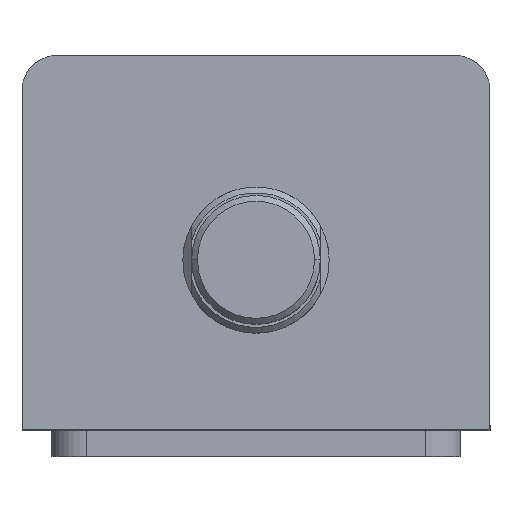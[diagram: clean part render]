
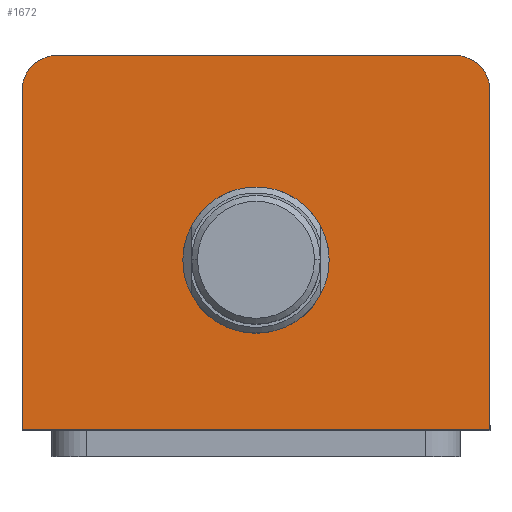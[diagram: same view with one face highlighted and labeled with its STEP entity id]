
A CAD part, top view. The second image highlights one B-rep face of the part: STEP entity #1672.
In plain terms, the highlighted planar face has unit normal (0, 0, 1).
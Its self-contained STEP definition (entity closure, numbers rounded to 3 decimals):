
#13 = CARTESIAN_POINT ( 'NONE',  ( 12.5, -3., 90. ) ) ;
#42 = CARTESIAN_POINT ( 'NONE',  ( 40., 26., 90. ) ) ;
#49 = CARTESIAN_POINT ( 'NONE',  ( -34., 32., 90. ) ) ;
#54 = CARTESIAN_POINT ( 'NONE',  ( 34., 32., 90. ) ) ;
#74 = CARTESIAN_POINT ( 'NONE',  ( -40., -32., 90. ) ) ;
#78 = CARTESIAN_POINT ( 'NONE',  ( 40., -32., 90. ) ) ;
#100 = CARTESIAN_POINT ( 'NONE',  ( -40., 26., 90. ) ) ;
#222 = ORIENTED_EDGE ( 'NONE', *, *, #1406, .T. ) ;
#224 = ORIENTED_EDGE ( 'NONE', *, *, #1346, .F. ) ;
#226 = ORIENTED_EDGE ( 'NONE', *, *, #1445, .F. ) ;
#227 = ORIENTED_EDGE ( 'NONE', *, *, #1428, .T. ) ;
#228 = ORIENTED_EDGE ( 'NONE', *, *, #1432, .T. ) ;
#229 = ORIENTED_EDGE ( 'NONE', *, *, #1374, .T. ) ;
#230 = ORIENTED_EDGE ( 'NONE', *, *, #1389, .T. ) ;
#231 = ORIENTED_EDGE ( 'NONE', *, *, #1419, .T. ) ;
#243 = AXIS2_PLACEMENT_3D ( 'NONE', #3142, #3137, #3135 ) ;
#338 = DIRECTION ( 'NONE',  ( 1., 0., 0. ) ) ;
#339 = DIRECTION ( 'NONE',  ( 0., 0., 1. ) ) ;
#342 = CARTESIAN_POINT ( 'NONE',  ( 34., 26., 90. ) ) ;
#399 = DIRECTION ( 'NONE',  ( -1., 0., 0. ) ) ;
#401 = CARTESIAN_POINT ( 'NONE',  ( -40., 32., 90. ) ) ;
#428 = DIRECTION ( 'NONE',  ( 0., 0., 1. ) ) ;
#432 = DIRECTION ( 'NONE',  ( 1., 0., 0. ) ) ;
#435 = CARTESIAN_POINT ( 'NONE',  ( 0., -3., 90. ) ) ;
#462 = DIRECTION ( 'NONE',  ( 0., 1., 0. ) ) ;
#463 = CARTESIAN_POINT ( 'NONE',  ( 40., 32., 90. ) ) ;
#503 = DIRECTION ( 'NONE',  ( 1., 0., 0. ) ) ;
#520 = CARTESIAN_POINT ( 'NONE',  ( -40., -32., 90. ) ) ;
#1007 = EDGE_LOOP ( 'NONE', ( #222, #227, #228, #229, #230, #231 ) ) ;
#1020 = EDGE_LOOP ( 'NONE', ( #226, #224 ) ) ;
#1346 = EDGE_CURVE ( 'NONE', #2391, #2360, #2675, .T. ) ;
#1374 = EDGE_CURVE ( 'NONE', #2310, #2307, #2713, .T. ) ;
#1389 = EDGE_CURVE ( 'NONE', #2307, #2336, #2747, .T. ) ;
#1406 = EDGE_CURVE ( 'NONE', #2327, #2330, #2776, .T. ) ;
#1419 = EDGE_CURVE ( 'NONE', #2336, #2327, #2792, .T. ) ;
#1428 = EDGE_CURVE ( 'NONE', #2330, #2289, #2805, .T. ) ;
#1432 = EDGE_CURVE ( 'NONE', #2289, #2310, #2811, .T. ) ;
#1445 = EDGE_CURVE ( 'NONE', #2360, #2391, #2836, .T. ) ;
#1672 = ADVANCED_FACE ( 'NONE', ( #1961, #1964 ), #3144, .T. ) ;
#1785 = AXIS2_PLACEMENT_3D ( 'NONE', #435, #428, #432 ) ;
#1800 = AXIS2_PLACEMENT_3D ( 'NONE', #3215, #3213, #3210 ) ;
#1841 = AXIS2_PLACEMENT_3D ( 'NONE', #342, #339, #338 ) ;
#1855 = AXIS2_PLACEMENT_3D ( 'NONE', #3368, #3366, #3365 ) ;
#1961 = FACE_BOUND ( 'NONE', #1020, .T. ) ;
#1964 = FACE_OUTER_BOUND ( 'NONE', #1007, .T. ) ;
#2289 = VERTEX_POINT ( 'NONE', #100 ) ;
#2307 = VERTEX_POINT ( 'NONE', #78 ) ;
#2310 = VERTEX_POINT ( 'NONE', #74 ) ;
#2327 = VERTEX_POINT ( 'NONE', #54 ) ;
#2330 = VERTEX_POINT ( 'NONE', #49 ) ;
#2336 = VERTEX_POINT ( 'NONE', #42 ) ;
#2360 = VERTEX_POINT ( 'NONE', #13 ) ;
#2391 = VERTEX_POINT ( 'NONE', #3397 ) ;
#2675 = CIRCLE ( 'NONE', #1785, 12.5 ) ;
#2713 = LINE ( 'NONE', #520, #2720 ) ;
#2720 = VECTOR ( 'NONE', #503, 1000. ) ;
#2747 = LINE ( 'NONE', #463, #2750 ) ;
#2750 = VECTOR ( 'NONE', #462, 1000. ) ;
#2776 = LINE ( 'NONE', #401, #2779 ) ;
#2779 = VECTOR ( 'NONE', #399, 1000. ) ;
#2792 = CIRCLE ( 'NONE', #1841, 6. ) ;
#2805 = CIRCLE ( 'NONE', #1855, 6. ) ;
#2811 = LINE ( 'NONE', #3331, #2814 ) ;
#2814 = VECTOR ( 'NONE', #3330, 1000. ) ;
#2836 = CIRCLE ( 'NONE', #1800, 12.5 ) ;
#3135 = DIRECTION ( 'NONE',  ( 1., 0., 0. ) ) ;
#3137 = DIRECTION ( 'NONE',  ( 0., 0., 1. ) ) ;
#3142 = CARTESIAN_POINT ( 'NONE',  ( 0., 0., 90. ) ) ;
#3144 = PLANE ( 'NONE',  #243 ) ;
#3210 = DIRECTION ( 'NONE',  ( 1., 0., 0. ) ) ;
#3213 = DIRECTION ( 'NONE',  ( 0., 0., 1. ) ) ;
#3215 = CARTESIAN_POINT ( 'NONE',  ( 0., -3., 90. ) ) ;
#3330 = DIRECTION ( 'NONE',  ( 0., -1., 0. ) ) ;
#3331 = CARTESIAN_POINT ( 'NONE',  ( -40., 32., 90. ) ) ;
#3365 = DIRECTION ( 'NONE',  ( 1., 0., 0. ) ) ;
#3366 = DIRECTION ( 'NONE',  ( 0., 0., 1. ) ) ;
#3368 = CARTESIAN_POINT ( 'NONE',  ( -34., 26., 90. ) ) ;
#3397 = CARTESIAN_POINT ( 'NONE',  ( -12.5, -3., 90. ) ) ;
